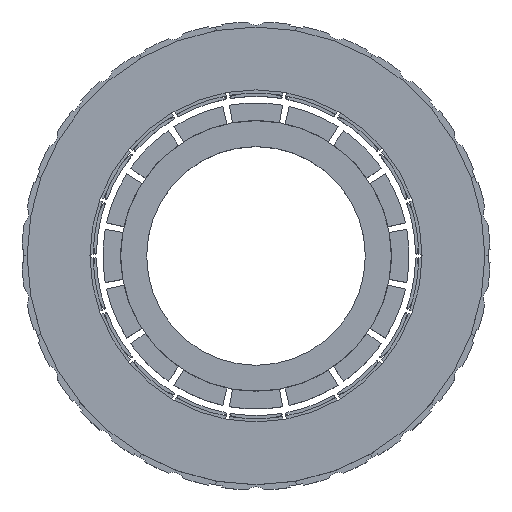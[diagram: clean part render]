
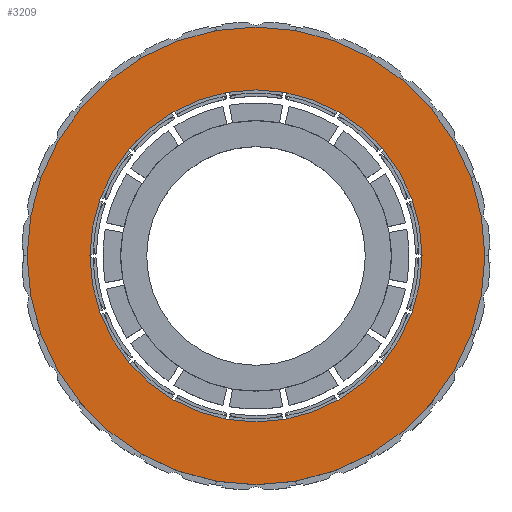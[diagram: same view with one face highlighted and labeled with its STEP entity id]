
A CAD part, top view. The second image highlights one B-rep face of the part: STEP entity #3209.
In plain terms, the highlighted planar face has unit normal (0, 0, 1).
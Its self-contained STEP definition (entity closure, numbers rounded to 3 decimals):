
#30 = DIRECTION ( 'NONE',  ( 0., 0., 1. ) ) ;
#154 = EDGE_LOOP ( 'NONE', ( #2976, #2811 ) ) ;
#491 = CIRCLE ( 'NONE', #5140, 28.25 ) ;
#565 = VERTEX_POINT ( 'NONE', #2751 ) ;
#650 = CARTESIAN_POINT ( 'NONE',  ( 0., 0., 5. ) ) ;
#661 = CIRCLE ( 'NONE', #4526, 28.25 ) ;
#676 = VERTEX_POINT ( 'NONE', #4076 ) ;
#809 = VERTEX_POINT ( 'NONE', #3707 ) ;
#1031 = DIRECTION ( 'NONE',  ( 1., 0., 0. ) ) ;
#1161 = DIRECTION ( 'NONE',  ( 1., 0., 0. ) ) ;
#1226 = ORIENTED_EDGE ( 'NONE', *, *, #4940, .F. ) ;
#1616 = CIRCLE ( 'NONE', #2645, 20.5 ) ;
#1733 = DIRECTION ( 'NONE',  ( 0., 0., 1. ) ) ;
#1970 = AXIS2_PLACEMENT_3D ( 'NONE', #4909, #4733, #1031 ) ;
#2182 = EDGE_CURVE ( 'NONE', #809, #565, #1616, .T. ) ;
#2183 = VERTEX_POINT ( 'NONE', #4463 ) ;
#2537 = CARTESIAN_POINT ( 'NONE',  ( 0., 0., 5. ) ) ;
#2645 = AXIS2_PLACEMENT_3D ( 'NONE', #3222, #4857, #1161 ) ;
#2751 = CARTESIAN_POINT ( 'NONE',  ( 20.5, 0., 5. ) ) ;
#2811 = ORIENTED_EDGE ( 'NONE', *, *, #5119, .T. ) ;
#2915 = PLANE ( 'NONE',  #1970 ) ;
#2976 = ORIENTED_EDGE ( 'NONE', *, *, #5147, .T. ) ;
#3068 = ORIENTED_EDGE ( 'NONE', *, *, #2182, .F. ) ;
#3209 = ADVANCED_FACE ( 'NONE', ( #3757, #3678 ), #2915, .T. ) ;
#3222 = CARTESIAN_POINT ( 'NONE',  ( 0., 0., 5. ) ) ;
#3678 = FACE_BOUND ( 'NONE', #4258, .T. ) ;
#3707 = CARTESIAN_POINT ( 'NONE',  ( -20.5, 0., 5. ) ) ;
#3757 = FACE_OUTER_BOUND ( 'NONE', #154, .T. ) ;
#4026 = DIRECTION ( 'NONE',  ( 0., 0., 1. ) ) ;
#4054 = DIRECTION ( 'NONE',  ( 1., 0., 0. ) ) ;
#4076 = CARTESIAN_POINT ( 'NONE',  ( 28.25, 0., 5. ) ) ;
#4106 = CARTESIAN_POINT ( 'NONE',  ( 0., 0., 5. ) ) ;
#4159 = DIRECTION ( 'NONE',  ( 1., 0., 0. ) ) ;
#4258 = EDGE_LOOP ( 'NONE', ( #3068, #1226 ) ) ;
#4463 = CARTESIAN_POINT ( 'NONE',  ( -28.25, 0., 5. ) ) ;
#4526 = AXIS2_PLACEMENT_3D ( 'NONE', #4106, #1733, #4159 ) ;
#4618 = CIRCLE ( 'NONE', #4962, 20.5 ) ;
#4733 = DIRECTION ( 'NONE',  ( 0., 0., 1. ) ) ;
#4857 = DIRECTION ( 'NONE',  ( 0., 0., 1. ) ) ;
#4909 = CARTESIAN_POINT ( 'NONE',  ( 0., 0., 5. ) ) ;
#4911 = DIRECTION ( 'NONE',  ( 1., 0., 0. ) ) ;
#4940 = EDGE_CURVE ( 'NONE', #565, #809, #4618, .T. ) ;
#4962 = AXIS2_PLACEMENT_3D ( 'NONE', #650, #4026, #4054 ) ;
#5119 = EDGE_CURVE ( 'NONE', #676, #2183, #661, .T. ) ;
#5140 = AXIS2_PLACEMENT_3D ( 'NONE', #2537, #30, #4911 ) ;
#5147 = EDGE_CURVE ( 'NONE', #2183, #676, #491, .T. ) ;
